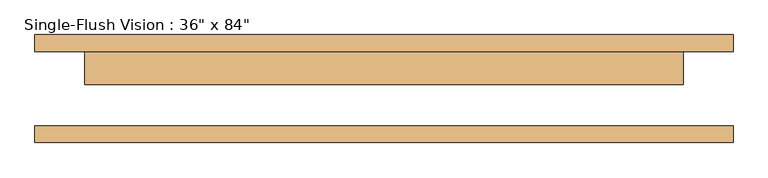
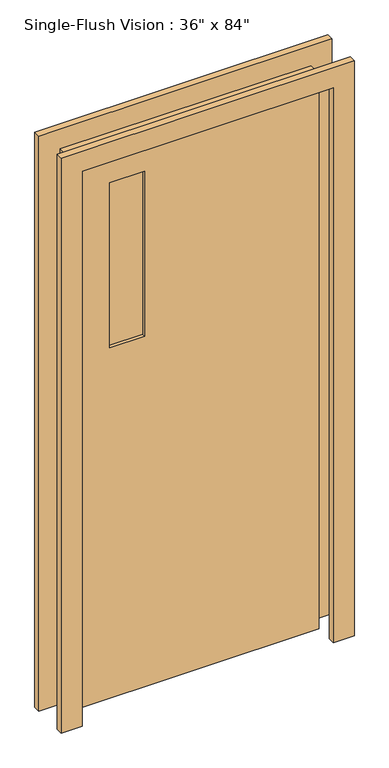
"""IFC4 building model written with IfcOpenShell, lengths in millimetres: door geometry."""

from ifc_helpers import new_model, si_unit, frame, origin, place, context, project, spatial, polyline, outline, extrude, source, transform, mapped, element, save


def door_fde454a0(model_context):
    return source(origin(), model_context, "Body", "SweptSolid", [
        extrude(outline(polyline([(2209.8, -533.4), (0.0, -533.4), (0.0, -457.2), (2133.6, -457.2), (2133.6, 457.2), (0.0, 457.2), (0.0, 533.4), (2209.8, 533.4), (2209.8, -533.4)])), frame((0.0, 57.15, 0.0), z_axis=(0.0, 1.0, 0.0), x_axis=(0.0, 0.0, 1.0)), (0.0, 0.0, 1.0), 25.4),
        extrude(outline(polyline([(2133.6, 457.2), (0.0, 457.2), (0.0, 533.4), (2209.8, 533.4), (2209.8, -533.4), (0.0, -533.4), (0.0, -457.2), (2133.6, -457.2), (2133.6, 457.2)])), frame((0.0, -82.55, 0.0), z_axis=(0.0, 1.0, 0.0), x_axis=(0.0, 0.0, 1.0)), (0.0, 0.0, 1.0), 25.4),
        extrude(outline(polyline([(-177.8, 19.05), (-304.8, 19.05), (-304.8, 25.4), (-177.8, 25.4), (-177.8, 19.05)])), frame((0.0, 0.0, 1346.2), z_axis=(0.0, 0.0, 1.0), x_axis=(1.0, 0.0, 0.0)), (0.0, 0.0, 1.0), 635.0),
        extrude(outline(polyline([(-177.8, 38.1), (-304.8, 38.1), (-304.8, 44.45), (-177.8, 44.45), (-177.8, 38.1)])), frame((0.0, 0.0, 1346.2), z_axis=(0.0, 0.0, 1.0), x_axis=(1.0, 0.0, 0.0)), (0.0, 0.0, 1.0), 635.0),
        extrude(outline(polyline([(2133.6, -457.2), (0.0, -457.2), (0.0, 457.2), (2133.6, 457.2), (2133.6, -457.2)]), holes=[polyline([(1981.2, -304.8), (1981.2, -177.8), (1346.2, -177.8), (1346.2, -304.8), (1981.2, -304.8)])]), frame((0.0, 6.35, 0.0), z_axis=(0.0, 1.0, 0.0), x_axis=(0.0, 0.0, 1.0)), (0.0, 0.0, 1.0), 50.8),
    ])


if __name__ == "__main__":
    model = new_model("IFC4")
    model_context = context("Model", 3, world=origin())
    ifc_project = project(units=[si_unit("LENGTHUNIT", "METRE", prefix="MILLI")], contexts=[model_context])
    site = spatial("IfcSite", under=ifc_project)
    building = spatial("IfcBuilding", under=site)
    placement = place(None, origin())
    door_shape = door_fde454a0(model_context)
    element("IfcDoor", 1, ObjectType="Single-Flush Vision : 36\" x 84\"", at=placement, inside=building, context=model_context, shape_type="MappedRepresentation", body=[
        mapped(door_shape, transform((0.0, 0.0, 0.0), x_axis=(1.0, 0.0, 0.0), y_axis=(0.0, 1.0, 0.0), z_axis=(0.0, 0.0, 1.0))),
    ])
    save(model, "model.ifc")
